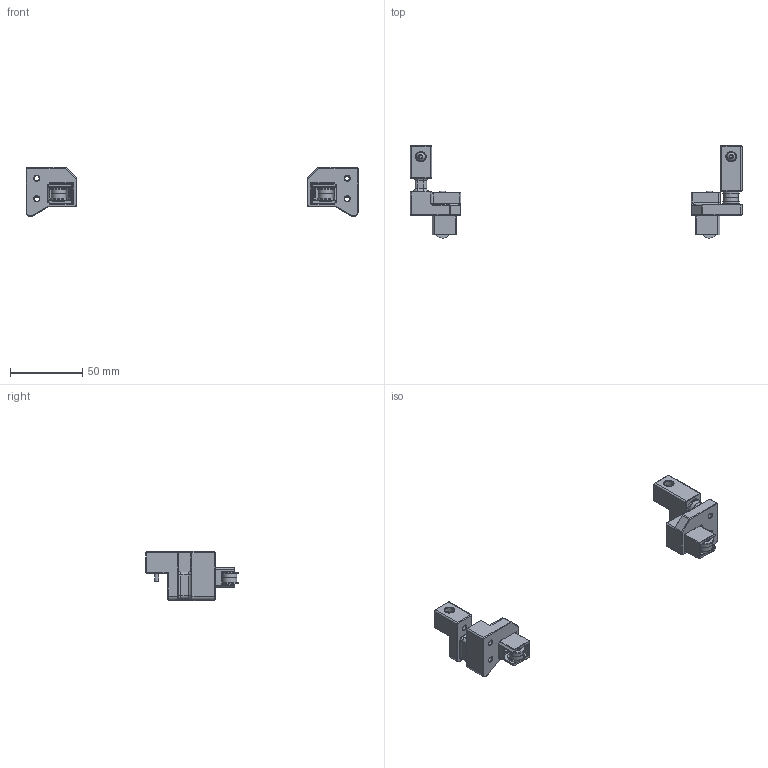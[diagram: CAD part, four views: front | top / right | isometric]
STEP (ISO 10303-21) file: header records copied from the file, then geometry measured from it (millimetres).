
FILE_DESCRIPTION(/* description */ (''),/* implementation_level */ '2;1');
FILE_NAME(/* name */ 'Tri-Zero_Z_Idler.step',/* time_stamp */ '2022-11-13T18:01:07+01:00',/* author */ (''),/* organization */ (''),/* preprocessor_version */ 'ST-DEVELOPER v19.2',/* originating_system */ 'Autodesk Translation Framework v11.17.0.187',/* authorisation */ '');
FILE_SCHEMA (('AUTOMOTIVE_DESIGN { 1 0 10303 214 3 1 1 }'));
Length unit declared in the file: millimetre
Products named in the file (21): Tri-Zero_A_Idler; A_Idler; M3x10 BHCS-1; Hardware; f623_stack; f623_stack_1; f623-rs; M3 washer-1; 3x12 Pin; f623_stack v2(Mirror); f623-rs_1; M3 washer-1_1; 3x12 Pin(Mirror); M3x16_BHCS; M3x4_Threaded_Insert; M3x4_Threaded_Insert v1(Mirror); M3x16_BHCS v1(Mirror); Tensioner v1; B_Idler v1; B_Idler; M3x10 BHCS-1 (1)
Assembly tree (28 placements, depth 4):
  Tri-Zero_A_Idler
    A_Idler
    M3x10 BHCS-1
    Hardware
      f623_stack
        f623-rs  x2
        M3 washer-1  x2
      f623_stack_1
        f623-rs  x2
        M3 washer-1  x2
      3x12 Pin
      f623_stack v2(Mirror)
        f623-rs_1  x2
        M3 washer-1_1  x2
      3x12 Pin(Mirror)
      M3x16_BHCS
      M3x4_Threaded_Insert
      M3x4_Threaded_Insert v1(Mirror)
      M3x16_BHCS v1(Mirror)
    Tensioner v1
    B_Idler v1
      B_Idler
      M3x10 BHCS-1 (1)
Bounding box: 230 x 63.87 x 34.01 mm (x, y, z)
Volume: 47412.9 mm3; surface area: 26996.3 mm2
Topology: 33 solids, 33 shells, 1239 faces, 3065 edges, 1908 vertices
Faces by surface type: plane 421, cylinder 314, bspline 314, cone 149, torus 30, sphere 11
Full cylindrical faces by diameter (mm): 3 x18, 3.2 x6, 3.4 x15, 4.6 x2, 5.05 x2, 5.16 x2, 5.56 x2, 5.7 x4, 6 x4, 6.06 x12, 6.4 x2, 6.5 x6, 6.94 x12, 7 x6, 10 x6, 11.7 x6
Entity records: 42195 total; most frequent: CARTESIAN_POINT 14804, ORIENTED_EDGE 5858, DIRECTION 5506, EDGE_CURVE 2929, AXIS2_PLACEMENT_3D 2057, VERTEX_POINT 1836, LINE 1392, VECTOR 1392
